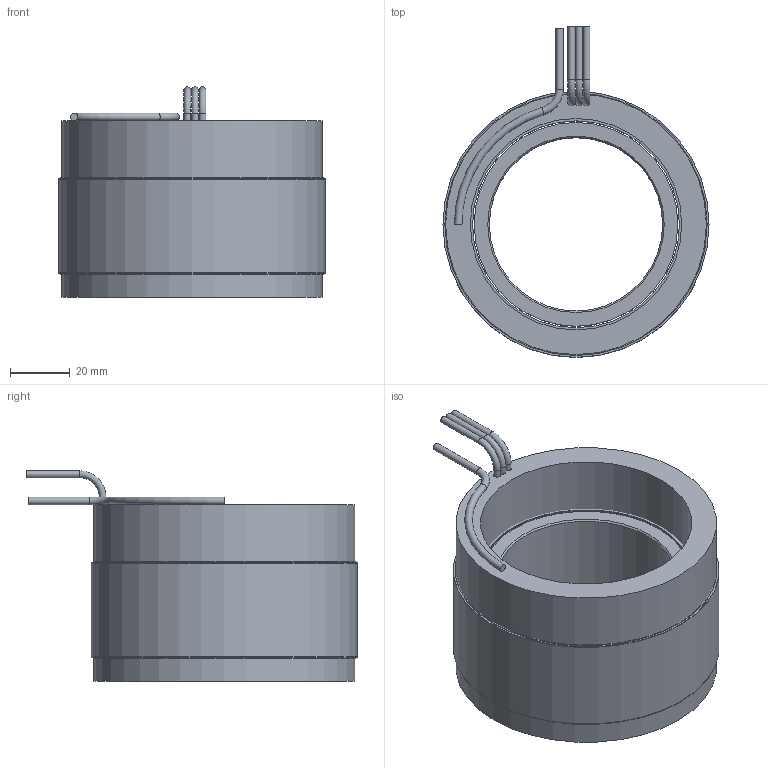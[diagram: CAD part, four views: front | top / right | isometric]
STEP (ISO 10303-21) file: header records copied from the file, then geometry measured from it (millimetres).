
FILE_DESCRIPTION (( 'STEP AP214' ), '1' );
FILE_NAME ('6100394-03.STEP', '2020-12-15T03:34:23', ( '' ), ( '' ), 'SwSTEP 2.0', 'SolidWorks 2016', '' );
FILE_SCHEMA (( 'AUTOMOTIVE_DESIGN' ));
Length unit declared in the file: inch
Products named in the file (10): 6100394-03; 4450191-XX_4450191-03; 4250382-XX_4250382-03; 4500560-XX_4500560-03; 4600567-00; COMP4500560-XX(COIL)_COMP4500560-03(COIL); 4400103-00; 4150180-XX_4150180-03
Assembly tree (10 placements, depth 4):
  6100394-03
    4500560-XX_4500560-03
      4450191-XX_4450191-03
        4450191-XX_4450191-03
        4400103-00
        4400103-00
        4600567-00  x2
      COMP4500560-XX(COIL)_COMP4500560-03(COIL)
    4250382-XX_4250382-03
      4150180-XX_4150180-03
Bounding box: 88.9 x 110.49 x 70.23 mm (x, y, z)
Volume: 232420.2 mm3; surface area: 89000.2 mm2
Topology: 8 solids, 8 shells, 47 faces, 74 edges, 46 vertices
Faces by surface type: cylinder 21, plane 19, torus 5, cone 2
Full cylindrical faces by diameter (mm): 2.286 x6, 2.54 x1, 57.912 x1, 68.072 x1, 69.088 x5, 70.612 x1, 87.122 x1, 87.63 x2, 88.9 x3
Entity records: 1305 total; most frequent: DIRECTION 202, CARTESIAN_POINT 143, AXIS2_PLACEMENT_3D 101, ORIENTED_EDGE 84, EDGE_LOOP 84, FACE_OUTER_BOUND 67, ADVANCED_FACE 43, CIRCLE 42
